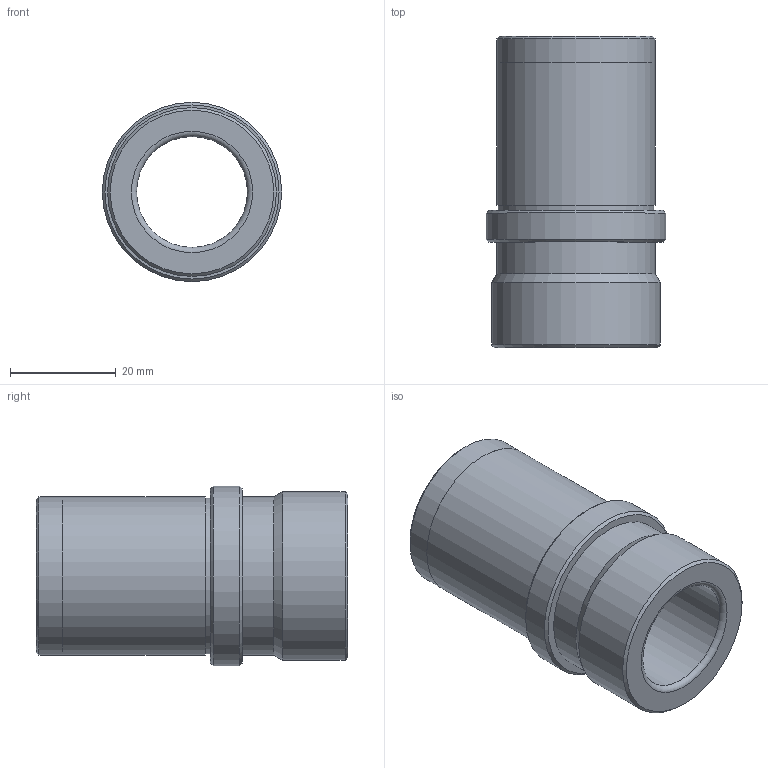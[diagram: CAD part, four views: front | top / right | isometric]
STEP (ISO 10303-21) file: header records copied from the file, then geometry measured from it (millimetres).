
FILE_DESCRIPTION( ( 'STEP AP203' ), '1' );
FILE_NAME( 'C:/Documents and Settings/EXPER/Desktop/Cuma/24 03 2009/D27/D27_15X59X33.step', '2003-01-02T03:36:32', ( ' ' ), ( ' ' ), 'XStep 1.0', ' ', ' ' );
FILE_SCHEMA( ( 'CONFIG_CONTROL_DESIGN' ) );
Length unit declared in the file: metre
Products named in the file (1): 1
Bounding box: 34 x 59 x 34 mm (x, y, z)
Volume: 23646.4 mm3; surface area: 10725.8 mm2
Topology: 1 solids, 1 shells, 20 faces, 34 edges, 20 vertices
Faces by surface type: cylinder 7, plane 6, cone 5, torus 2
Full cylindrical faces by diameter (mm): 21 x1, 29.5 x1, 29.98 x1, 30 x2, 32 x1, 34 x1
Entity records: 453 total; most frequent: DIRECTION 82, CARTESIAN_POINT 61, AXIS2_PLACEMENT_3D 41, EDGE_LOOP 40, ORIENTED_EDGE 40, FACE_OUTER_BOUND 29, ADVANCED_FACE 20, EDGE_CURVE 20
